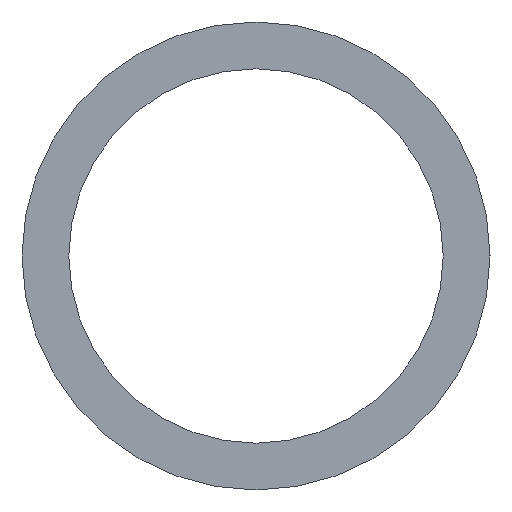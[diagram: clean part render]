
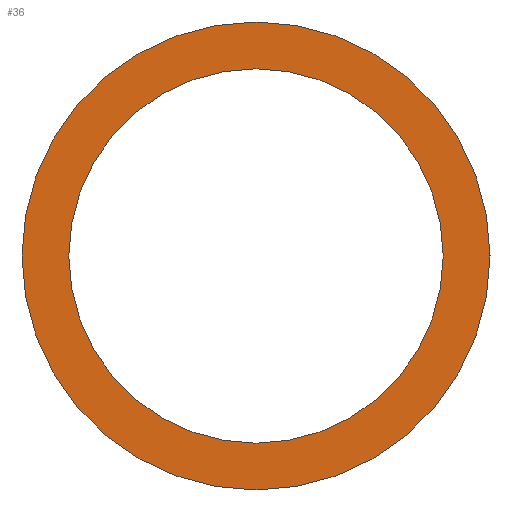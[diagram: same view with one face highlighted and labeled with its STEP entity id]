
A CAD part, left-side view. The second image highlights one B-rep face of the part: STEP entity #36.
In plain terms, the highlighted planar face has unit normal (-1, 0, 0).
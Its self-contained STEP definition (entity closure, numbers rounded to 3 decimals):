
#3 = DIRECTION ( 'NONE',  ( 1., 0., 0. ) ) ;
#5 = AXIS2_PLACEMENT_3D ( 'NONE', #113, #83, #202 ) ;
#8 = EDGE_CURVE ( 'NONE', #117, #23, #204, .T. ) ;
#9 = CIRCLE ( 'NONE', #38, 20. ) ;
#10 = EDGE_CURVE ( 'NONE', #177, #185, #201, .T. ) ;
#23 = VERTEX_POINT ( 'NONE', #42 ) ;
#24 = ORIENTED_EDGE ( 'NONE', *, *, #10, .F. ) ;
#25 = CARTESIAN_POINT ( 'NONE',  ( -295., 0., 25. ) ) ;
#32 = PLANE ( 'NONE',  #138 ) ;
#33 = EDGE_LOOP ( 'NONE', ( #189, #211 ) ) ;
#36 = ADVANCED_FACE ( 'NONE', ( #98, #168 ), #32, .F. ) ;
#38 = AXIS2_PLACEMENT_3D ( 'NONE', #147, #43, #59 ) ;
#41 = AXIS2_PLACEMENT_3D ( 'NONE', #136, #183, #167 ) ;
#42 = CARTESIAN_POINT ( 'NONE',  ( -295., 0., -20. ) ) ;
#43 = DIRECTION ( 'NONE',  ( 1., 0., 0. ) ) ;
#59 = DIRECTION ( 'NONE',  ( 0., 0., -1. ) ) ;
#65 = EDGE_CURVE ( 'NONE', #185, #177, #142, .T. ) ;
#71 = DIRECTION ( 'NONE',  ( 0., 0., -1. ) ) ;
#76 = CARTESIAN_POINT ( 'NONE',  ( -295., 0., 0. ) ) ;
#83 = DIRECTION ( 'NONE',  ( 1., 0., 0. ) ) ;
#87 = AXIS2_PLACEMENT_3D ( 'NONE', #100, #134, #71 ) ;
#95 = CARTESIAN_POINT ( 'NONE',  ( -295., 0., -25. ) ) ;
#98 = FACE_OUTER_BOUND ( 'NONE', #158, .T. ) ;
#100 = CARTESIAN_POINT ( 'NONE',  ( -295., 0., 0. ) ) ;
#107 = CARTESIAN_POINT ( 'NONE',  ( -295., 0., 20. ) ) ;
#113 = CARTESIAN_POINT ( 'NONE',  ( -295., 0., 0. ) ) ;
#117 = VERTEX_POINT ( 'NONE', #107 ) ;
#134 = DIRECTION ( 'NONE',  ( 1., 0., 0. ) ) ;
#136 = CARTESIAN_POINT ( 'NONE',  ( -295., 0., 0. ) ) ;
#138 = AXIS2_PLACEMENT_3D ( 'NONE', #76, #3, #164 ) ;
#142 = CIRCLE ( 'NONE', #5, 25. ) ;
#147 = CARTESIAN_POINT ( 'NONE',  ( -295., 0., 0. ) ) ;
#152 = EDGE_CURVE ( 'NONE', #23, #117, #9, .T. ) ;
#158 = EDGE_LOOP ( 'NONE', ( #24, #186 ) ) ;
#164 = DIRECTION ( 'NONE',  ( 0., 0., -1. ) ) ;
#167 = DIRECTION ( 'NONE',  ( 0., 0., -1. ) ) ;
#168 = FACE_BOUND ( 'NONE', #33, .T. ) ;
#177 = VERTEX_POINT ( 'NONE', #25 ) ;
#183 = DIRECTION ( 'NONE',  ( 1., 0., 0. ) ) ;
#185 = VERTEX_POINT ( 'NONE', #95 ) ;
#186 = ORIENTED_EDGE ( 'NONE', *, *, #65, .F. ) ;
#189 = ORIENTED_EDGE ( 'NONE', *, *, #8, .T. ) ;
#201 = CIRCLE ( 'NONE', #87, 25. ) ;
#202 = DIRECTION ( 'NONE',  ( 0., 0., -1. ) ) ;
#204 = CIRCLE ( 'NONE', #41, 20. ) ;
#211 = ORIENTED_EDGE ( 'NONE', *, *, #152, .T. ) ;
